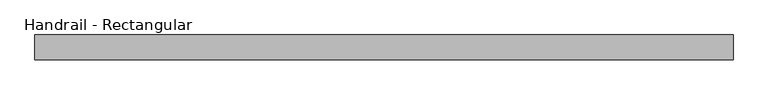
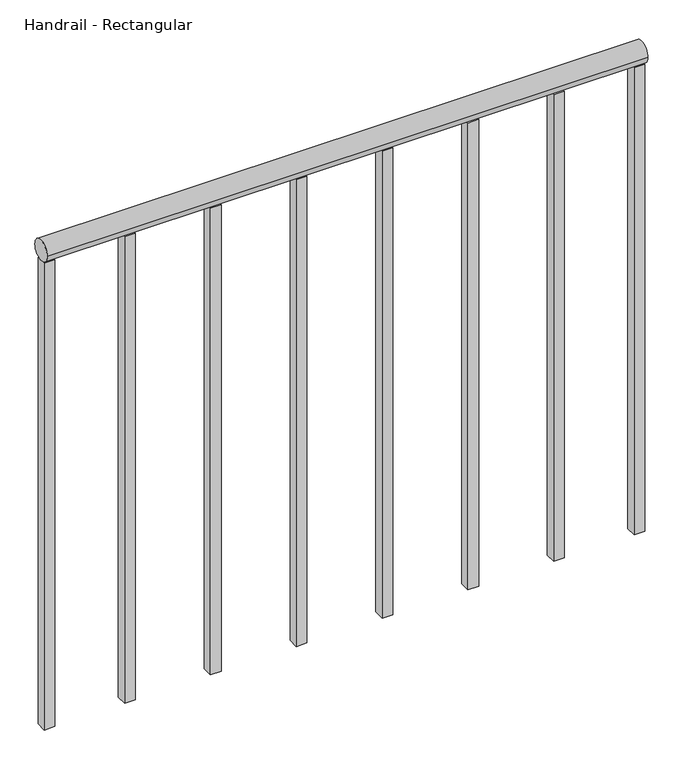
"""IFC4 building model written with IfcOpenShell, lengths in millimetres: railing geometry, Handrail - Rectangular."""

from ifc_helpers import new_model, si_unit, point, frame, frame_2d, origin, place, context, project, spatial, polyline, circle_curve, trimmed, segment, composite_curve, outline, extrude, source, transform, mapped, element, save


def handrail_rectangular_bb34a243(model_context):
    return source(origin(), model_context, "Body", "SweptSolid", [
        extrude(outline(composite_curve([segment(trimmed(circle_curve(frame_2d((-35553.1683133, 3943.35)), 19.05), [point((-35572.2183133, 3943.35))], [point((-35534.1183133, 3943.35))], False, "CARTESIAN"), True, "CONTINUOUS"), segment(trimmed(circle_curve(frame_2d((-35553.1683133, 3943.35)), 19.05), [point((-35534.1183133, 3943.35))], [point((-35572.2183133, 3943.35))], False, "CARTESIAN"), True, "CONTINUOUS")], self_intersect=False)), frame((1027.1410437, 0.0, 0.0), z_axis=(1.0, 0.0, 0.0), x_axis=(0.0, 1.0, 0.0)), (0.0, 0.0, 1.0), 1066.8),
        extrude(outline(polyline([(1932.0160437, -35543.6433133), (1951.0660437, -35543.6433133), (1951.0660437, -35562.6933133), (1932.0160437, -35562.6933133), (1932.0160437, -35543.6433133)])), frame((0.0, 0.0, 3048.0), z_axis=(0.0, 0.0, 1.0), x_axis=(1.0, 0.0, 0.0)), (0.0, 0.0, 1.0), 876.3),
        extrude(outline(polyline([(1779.6160437, -35543.6433133), (1798.6660437, -35543.6433133), (1798.6660437, -35562.6933133), (1779.6160437, -35562.6933133), (1779.6160437, -35543.6433133)])), frame((0.0, 0.0, 3048.0), z_axis=(0.0, 0.0, 1.0), x_axis=(1.0, 0.0, 0.0)), (0.0, 0.0, 1.0), 876.3),
        extrude(outline(polyline([(1627.2160437, -35543.6433133), (1646.2660437, -35543.6433133), (1646.2660437, -35562.6933133), (1627.2160437, -35562.6933133), (1627.2160437, -35543.6433133)])), frame((0.0, 0.0, 3048.0), z_axis=(0.0, 0.0, 1.0), x_axis=(1.0, 0.0, 0.0)), (0.0, 0.0, 1.0), 876.3),
        extrude(outline(polyline([(1474.8160437, -35543.6433133), (1493.8660437, -35543.6433133), (1493.8660437, -35562.6933133), (1474.8160437, -35562.6933133), (1474.8160437, -35543.6433133)])), frame((0.0, 0.0, 3048.0), z_axis=(0.0, 0.0, 1.0), x_axis=(1.0, 0.0, 0.0)), (0.0, 0.0, 1.0), 876.3),
        extrude(outline(polyline([(1322.4160437, -35543.6433133), (1341.4660437, -35543.6433133), (1341.4660437, -35562.6933133), (1322.4160437, -35562.6933133), (1322.4160437, -35543.6433133)])), frame((0.0, 0.0, 3048.0), z_axis=(0.0, 0.0, 1.0), x_axis=(1.0, 0.0, 0.0)), (0.0, 0.0, 1.0), 876.3),
        extrude(outline(polyline([(1170.0160437, -35543.6433133), (1189.0660437, -35543.6433133), (1189.0660437, -35562.6933133), (1170.0160437, -35562.6933133), (1170.0160437, -35543.6433133)])), frame((0.0, 0.0, 3048.0), z_axis=(0.0, 0.0, 1.0), x_axis=(1.0, 0.0, 0.0)), (0.0, 0.0, 1.0), 876.3),
        extrude(outline(polyline([(2074.8910437, -35543.6433133), (2093.9410437, -35543.6433133), (2093.9410437, -35562.6933133), (2074.8910437, -35562.6933133), (2074.8910437, -35543.6433133)])), frame((0.0, 0.0, 3048.0), z_axis=(0.0, 0.0, 1.0), x_axis=(1.0, 0.0, 0.0)), (0.0, 0.0, 1.0), 876.3),
        extrude(outline(polyline([(1027.1410437, -35543.6433133), (1046.1910437, -35543.6433133), (1046.1910437, -35562.6933133), (1027.1410437, -35562.6933133), (1027.1410437, -35543.6433133)])), frame((0.0, 0.0, 3048.0), z_axis=(0.0, 0.0, 1.0), x_axis=(1.0, 0.0, 0.0)), (0.0, 0.0, 1.0), 876.3),
    ])


if __name__ == "__main__":
    model = new_model("IFC4")
    model_context = context("Model", 3, world=origin())
    ifc_project = project(units=[si_unit("LENGTHUNIT", "METRE", prefix="MILLI")], contexts=[model_context])
    site = spatial("IfcSite", under=ifc_project)
    building = spatial("IfcBuilding", under=site)
    placement = place(None, origin())
    handrail_rectangular_shape = handrail_rectangular_bb34a243(model_context)
    element("IfcRailing", 1, ObjectType="Handrail - Rectangular", at=placement, inside=building, context=model_context, shape_type="MappedRepresentation", body=[
        mapped(handrail_rectangular_shape, transform((0.0, 0.0, 0.0), x_axis=(1.0, 0.0, 0.0), y_axis=(0.0, 1.0, 0.0), z_axis=(0.0, 0.0, 1.0))),
    ])
    save(model, "model.ifc")
